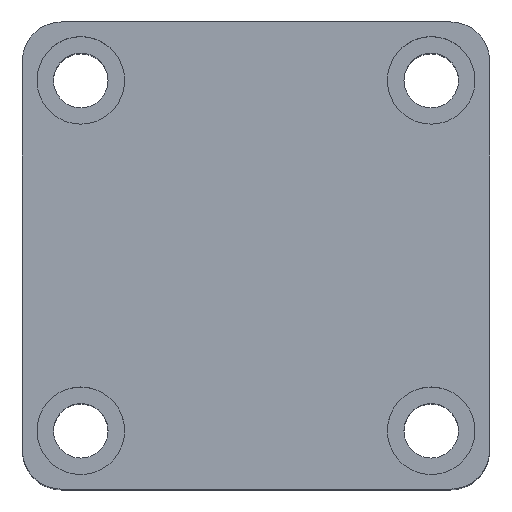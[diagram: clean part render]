
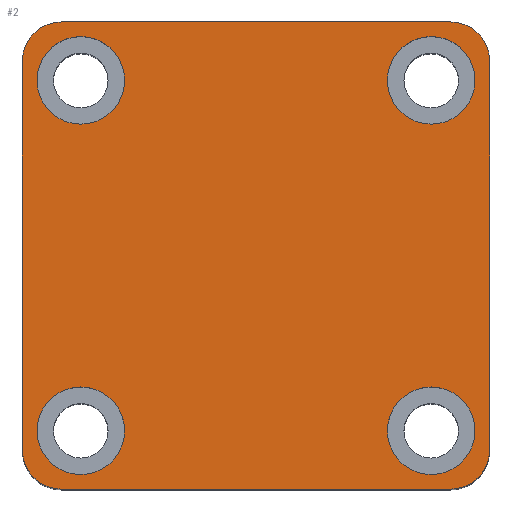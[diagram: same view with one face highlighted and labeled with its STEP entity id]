
A CAD part, top view. The second image highlights one B-rep face of the part: STEP entity #2.
In plain terms, the highlighted planar face has unit normal (0, 0, 1).
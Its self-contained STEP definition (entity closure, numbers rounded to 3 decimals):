
#2 = ADVANCED_FACE ( 'NONE', ( #809, #805, #808, #806, #807 ), #1878, .T. ) ;
#267 = VECTOR ( 'NONE', #2582, 1000. ) ;
#273 = LINE ( 'NONE', #2573, #267 ) ;
#391 = AXIS2_PLACEMENT_3D ( 'NONE', #2577, #2569, #2574 ) ;
#392 = AXIS2_PLACEMENT_3D ( 'NONE', #2583, #2581, #2580 ) ;
#394 = AXIS2_PLACEMENT_3D ( 'NONE', #2613, #2600, #2597 ) ;
#395 = AXIS2_PLACEMENT_3D ( 'NONE', #2615, #2616, #2614 ) ;
#396 = AXIS2_PLACEMENT_3D ( 'NONE', #2620, #2619, #2618 ) ;
#397 = AXIS2_PLACEMENT_3D ( 'NONE', #2632, #2638, #2623 ) ;
#398 = AXIS2_PLACEMENT_3D ( 'NONE', #1437, #2645, #2200 ) ;
#399 = AXIS2_PLACEMENT_3D ( 'NONE', #1441, #1440, #1439 ) ;
#409 = AXIS2_PLACEMENT_3D ( 'NONE', #1560, #1558, #1555 ) ;
#411 = AXIS2_PLACEMENT_3D ( 'NONE', #1577, #1576, #1572 ) ;
#425 = AXIS2_PLACEMENT_3D ( 'NONE', #1680, #1678, #1676 ) ;
#430 = AXIS2_PLACEMENT_3D ( 'NONE', #1713, #1712, #1711 ) ;
#520 = AXIS2_PLACEMENT_3D ( 'NONE', #1875, #1882, #1868 ) ;
#528 = EDGE_CURVE ( 'NONE', #946, #945, #2094, .T. ) ;
#537 = EDGE_CURVE ( 'NONE', #950, #949, #2080, .T. ) ;
#568 = EDGE_CURVE ( 'NONE', #938, #937, #2040, .T. ) ;
#574 = EDGE_CURVE ( 'NONE', #942, #941, #2031, .T. ) ;
#590 = EDGE_CURVE ( 'NONE', #1018, #1019, #2002, .T. ) ;
#593 = EDGE_CURVE ( 'NONE', #980, #968, #1997, .T. ) ;
#599 = EDGE_CURVE ( 'NONE', #1021, #1022, #1986, .T. ) ;
#603 = EDGE_CURVE ( 'NONE', #949, #950, #1978, .T. ) ;
#604 = EDGE_CURVE ( 'NONE', #945, #946, #1976, .T. ) ;
#607 = EDGE_CURVE ( 'NONE', #941, #942, #1974, .T. ) ;
#608 = EDGE_CURVE ( 'NONE', #937, #938, #1970, .T. ) ;
#609 = EDGE_CURVE ( 'NONE', #1019, #980, #1969, .T. ) ;
#610 = EDGE_CURVE ( 'NONE', #968, #1021, #1968, .T. ) ;
#612 = EDGE_CURVE ( 'NONE', #1022, #923, #1972, .T. ) ;
#614 = EDGE_CURVE ( 'NONE', #987, #1018, #1964, .T. ) ;
#663 = EDGE_CURVE ( 'NONE', #923, #987, #273, .T. ) ;
#805 = FACE_BOUND ( 'NONE', #857, .T. ) ;
#806 = FACE_BOUND ( 'NONE', #855, .T. ) ;
#807 = FACE_OUTER_BOUND ( 'NONE', #854, .T. ) ;
#808 = FACE_BOUND ( 'NONE', #860, .T. ) ;
#809 = FACE_BOUND ( 'NONE', #862, .T. ) ;
#854 = EDGE_LOOP ( 'NONE', ( #1094, #1093, #1092, #1044, #1043, #1042, #1040, #1037 ) ) ;
#855 = EDGE_LOOP ( 'NONE', ( #1097, #1096 ) ) ;
#857 = EDGE_LOOP ( 'NONE', ( #1062, #1135 ) ) ;
#860 = EDGE_LOOP ( 'NONE', ( #1121, #1109 ) ) ;
#862 = EDGE_LOOP ( 'NONE', ( #1081, #1078 ) ) ;
#923 = VERTEX_POINT ( 'NONE', #2491 ) ;
#937 = VERTEX_POINT ( 'NONE', #2470 ) ;
#938 = VERTEX_POINT ( 'NONE', #2469 ) ;
#941 = VERTEX_POINT ( 'NONE', #2466 ) ;
#942 = VERTEX_POINT ( 'NONE', #2464 ) ;
#945 = VERTEX_POINT ( 'NONE', #2461 ) ;
#946 = VERTEX_POINT ( 'NONE', #2460 ) ;
#949 = VERTEX_POINT ( 'NONE', #2454 ) ;
#950 = VERTEX_POINT ( 'NONE', #2453 ) ;
#968 = VERTEX_POINT ( 'NONE', #2441 ) ;
#980 = VERTEX_POINT ( 'NONE', #2418 ) ;
#987 = VERTEX_POINT ( 'NONE', #2412 ) ;
#1018 = VERTEX_POINT ( 'NONE', #2376 ) ;
#1019 = VERTEX_POINT ( 'NONE', #2375 ) ;
#1021 = VERTEX_POINT ( 'NONE', #2372 ) ;
#1022 = VERTEX_POINT ( 'NONE', #2371 ) ;
#1037 = ORIENTED_EDGE ( 'NONE', *, *, #614, .T. ) ;
#1040 = ORIENTED_EDGE ( 'NONE', *, *, #663, .T. ) ;
#1042 = ORIENTED_EDGE ( 'NONE', *, *, #612, .T. ) ;
#1043 = ORIENTED_EDGE ( 'NONE', *, *, #599, .T. ) ;
#1044 = ORIENTED_EDGE ( 'NONE', *, *, #610, .T. ) ;
#1062 = ORIENTED_EDGE ( 'NONE', *, *, #604, .F. ) ;
#1078 = ORIENTED_EDGE ( 'NONE', *, *, #537, .F. ) ;
#1081 = ORIENTED_EDGE ( 'NONE', *, *, #603, .F. ) ;
#1092 = ORIENTED_EDGE ( 'NONE', *, *, #593, .T. ) ;
#1093 = ORIENTED_EDGE ( 'NONE', *, *, #609, .T. ) ;
#1094 = ORIENTED_EDGE ( 'NONE', *, *, #590, .T. ) ;
#1096 = ORIENTED_EDGE ( 'NONE', *, *, #568, .F. ) ;
#1097 = ORIENTED_EDGE ( 'NONE', *, *, #608, .F. ) ;
#1109 = ORIENTED_EDGE ( 'NONE', *, *, #574, .F. ) ;
#1121 = ORIENTED_EDGE ( 'NONE', *, *, #607, .F. ) ;
#1135 = ORIENTED_EDGE ( 'NONE', *, *, #528, .F. ) ;
#1437 = CARTESIAN_POINT ( 'NONE',  ( 18., 18., 50. ) ) ;
#1439 = DIRECTION ( 'NONE',  ( 1., 0., 0. ) ) ;
#1440 = DIRECTION ( 'NONE',  ( 0., 0., 1. ) ) ;
#1441 = CARTESIAN_POINT ( 'NONE',  ( -18., 18., 50. ) ) ;
#1453 = DIRECTION ( 'NONE',  ( 1., 0., 0. ) ) ;
#1454 = CARTESIAN_POINT ( 'NONE',  ( -24., -24., 50. ) ) ;
#1477 = DIRECTION ( 'NONE',  ( 0., -1., 0. ) ) ;
#1479 = CARTESIAN_POINT ( 'NONE',  ( -24., 24., 50. ) ) ;
#1487 = DIRECTION ( 'NONE',  ( -1., 0., 0. ) ) ;
#1489 = CARTESIAN_POINT ( 'NONE',  ( -24., 24., 50. ) ) ;
#1555 = DIRECTION ( 'NONE',  ( 1., 0., 0. ) ) ;
#1558 = DIRECTION ( 'NONE',  ( 0., 0., 1. ) ) ;
#1560 = CARTESIAN_POINT ( 'NONE',  ( -18., -18., 50. ) ) ;
#1572 = DIRECTION ( 'NONE',  ( 1., 0., 0. ) ) ;
#1576 = DIRECTION ( 'NONE',  ( 0., 0., 1. ) ) ;
#1577 = CARTESIAN_POINT ( 'NONE',  ( 18., -18., 50. ) ) ;
#1676 = DIRECTION ( 'NONE',  ( 1., 0., 0. ) ) ;
#1678 = DIRECTION ( 'NONE',  ( 0., 0., 1. ) ) ;
#1680 = CARTESIAN_POINT ( 'NONE',  ( -18., 18., 50. ) ) ;
#1711 = DIRECTION ( 'NONE',  ( 1., 0., 0. ) ) ;
#1712 = DIRECTION ( 'NONE',  ( 0., 0., 1. ) ) ;
#1713 = CARTESIAN_POINT ( 'NONE',  ( 18., 18., 50. ) ) ;
#1868 = DIRECTION ( 'NONE',  ( 1., 0., 0. ) ) ;
#1875 = CARTESIAN_POINT ( 'NONE',  ( 0., 0., 50. ) ) ;
#1878 = PLANE ( 'NONE',  #520 ) ;
#1882 = DIRECTION ( 'NONE',  ( 0., 0., 1. ) ) ;
#1964 = CIRCLE ( 'NONE', #391, 4. ) ;
#1968 = CIRCLE ( 'NONE', #394, 4. ) ;
#1969 = CIRCLE ( 'NONE', #395, 4. ) ;
#1970 = CIRCLE ( 'NONE', #396, 4.5 ) ;
#1972 = CIRCLE ( 'NONE', #392, 4. ) ;
#1974 = CIRCLE ( 'NONE', #397, 4.5 ) ;
#1976 = CIRCLE ( 'NONE', #398, 4.5 ) ;
#1978 = CIRCLE ( 'NONE', #399, 4.5 ) ;
#1983 = VECTOR ( 'NONE', #1453, 1000. ) ;
#1986 = LINE ( 'NONE', #1454, #1983 ) ;
#1994 = VECTOR ( 'NONE', #1477, 1000. ) ;
#1997 = LINE ( 'NONE', #1479, #1994 ) ;
#1999 = VECTOR ( 'NONE', #1487, 1000. ) ;
#2002 = LINE ( 'NONE', #1489, #1999 ) ;
#2031 = CIRCLE ( 'NONE', #409, 4.5 ) ;
#2040 = CIRCLE ( 'NONE', #411, 4.5 ) ;
#2080 = CIRCLE ( 'NONE', #425, 4.5 ) ;
#2094 = CIRCLE ( 'NONE', #430, 4.5 ) ;
#2200 = DIRECTION ( 'NONE',  ( 1., 0., 0. ) ) ;
#2371 = CARTESIAN_POINT ( 'NONE',  ( 20., -24., 50. ) ) ;
#2372 = CARTESIAN_POINT ( 'NONE',  ( -20., -24., 50. ) ) ;
#2375 = CARTESIAN_POINT ( 'NONE',  ( -20., 24., 50. ) ) ;
#2376 = CARTESIAN_POINT ( 'NONE',  ( 20., 24., 50. ) ) ;
#2412 = CARTESIAN_POINT ( 'NONE',  ( 24., 20., 50. ) ) ;
#2418 = CARTESIAN_POINT ( 'NONE',  ( -24., 20., 50. ) ) ;
#2441 = CARTESIAN_POINT ( 'NONE',  ( -24., -20., 50. ) ) ;
#2453 = CARTESIAN_POINT ( 'NONE',  ( -22.5, 18., 50. ) ) ;
#2454 = CARTESIAN_POINT ( 'NONE',  ( -13.5, 18., 50. ) ) ;
#2460 = CARTESIAN_POINT ( 'NONE',  ( 13.5, 18., 50. ) ) ;
#2461 = CARTESIAN_POINT ( 'NONE',  ( 22.5, 18., 50. ) ) ;
#2464 = CARTESIAN_POINT ( 'NONE',  ( -22.5, -18., 50. ) ) ;
#2466 = CARTESIAN_POINT ( 'NONE',  ( -13.5, -18., 50. ) ) ;
#2469 = CARTESIAN_POINT ( 'NONE',  ( 13.5, -18., 50. ) ) ;
#2470 = CARTESIAN_POINT ( 'NONE',  ( 22.5, -18., 50. ) ) ;
#2491 = CARTESIAN_POINT ( 'NONE',  ( 24., -20., 50. ) ) ;
#2569 = DIRECTION ( 'NONE',  ( 0., 0., 1. ) ) ;
#2573 = CARTESIAN_POINT ( 'NONE',  ( 24., 24., 50. ) ) ;
#2574 = DIRECTION ( 'NONE',  ( 1., 0., 0. ) ) ;
#2577 = CARTESIAN_POINT ( 'NONE',  ( 20., 20., 50. ) ) ;
#2580 = DIRECTION ( 'NONE',  ( 1., 0., 0. ) ) ;
#2581 = DIRECTION ( 'NONE',  ( 0., 0., 1. ) ) ;
#2582 = DIRECTION ( 'NONE',  ( 0., 1., 0. ) ) ;
#2583 = CARTESIAN_POINT ( 'NONE',  ( 20., -20., 50. ) ) ;
#2597 = DIRECTION ( 'NONE',  ( 1., 0., 0. ) ) ;
#2600 = DIRECTION ( 'NONE',  ( 0., 0., 1. ) ) ;
#2613 = CARTESIAN_POINT ( 'NONE',  ( -20., -20., 50. ) ) ;
#2614 = DIRECTION ( 'NONE',  ( 1., 0., 0. ) ) ;
#2615 = CARTESIAN_POINT ( 'NONE',  ( -20., 20., 50. ) ) ;
#2616 = DIRECTION ( 'NONE',  ( 0., 0., 1. ) ) ;
#2618 = DIRECTION ( 'NONE',  ( 1., 0., 0. ) ) ;
#2619 = DIRECTION ( 'NONE',  ( 0., 0., 1. ) ) ;
#2620 = CARTESIAN_POINT ( 'NONE',  ( 18., -18., 50. ) ) ;
#2623 = DIRECTION ( 'NONE',  ( 1., 0., 0. ) ) ;
#2632 = CARTESIAN_POINT ( 'NONE',  ( -18., -18., 50. ) ) ;
#2638 = DIRECTION ( 'NONE',  ( 0., 0., 1. ) ) ;
#2645 = DIRECTION ( 'NONE',  ( 0., 0., 1. ) ) ;
